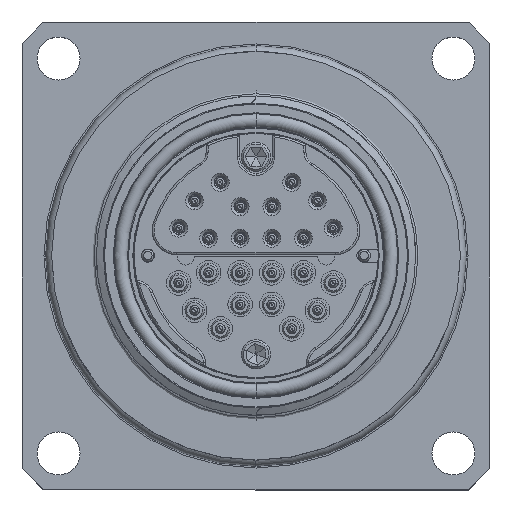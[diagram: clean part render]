
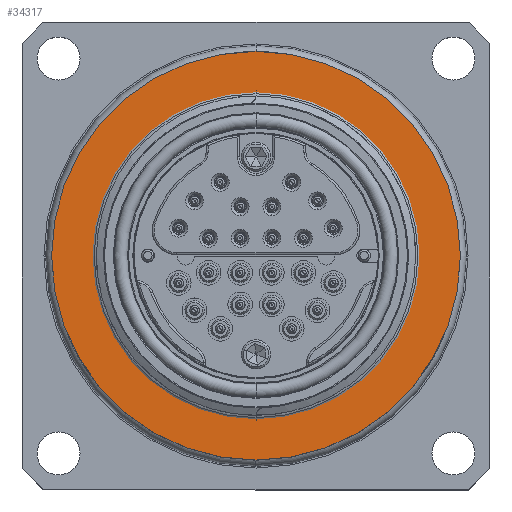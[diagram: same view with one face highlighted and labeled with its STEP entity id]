
A CAD part, top view. The second image highlights one B-rep face of the part: STEP entity #34317.
In plain terms, the highlighted planar face has unit normal (0, 0, 1).
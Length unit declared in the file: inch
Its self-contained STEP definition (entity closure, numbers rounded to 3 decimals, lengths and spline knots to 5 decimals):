
#977 = ORIENTED_EDGE ( 'NONE', *, *, #27451, .T. ) ;
#1308 = CARTESIAN_POINT ( 'NONE',  ( 0., -0.82, -0.502 ) ) ;
#2486 = CIRCLE ( 'NONE', #28874, 0.82 ) ;
#3583 = DIRECTION ( 'NONE',  ( 0., -1., 0. ) ) ;
#3795 = AXIS2_PLACEMENT_3D ( 'NONE', #22669, #11520, #36843 ) ;
#5734 = CARTESIAN_POINT ( 'NONE',  ( 0., 0.82, -0.502 ) ) ;
#7147 = FACE_BOUND ( 'NONE', #18010, .T. ) ;
#7877 = CARTESIAN_POINT ( 'NONE',  ( 0., -1.035, -0.502 ) ) ;
#8139 = CARTESIAN_POINT ( 'NONE',  ( 0., 0., -0.502 ) ) ;
#9827 = CIRCLE ( 'NONE', #43102, 0.82 ) ;
#10317 = ORIENTED_EDGE ( 'NONE', *, *, #14584, .T. ) ;
#10973 = CARTESIAN_POINT ( 'NONE',  ( 0., 0., -0.502 ) ) ;
#11520 = DIRECTION ( 'NONE',  ( 0., 0., 1. ) ) ;
#13177 = CARTESIAN_POINT ( 'NONE',  ( 0., 1.035, -0.502 ) ) ;
#13868 = DIRECTION ( 'NONE',  ( 0., 0., 1. ) ) ;
#14584 = EDGE_CURVE ( 'NONE', #30084, #15568, #25622, .T. ) ;
#15568 = VERTEX_POINT ( 'NONE', #13177 ) ;
#16405 = DIRECTION ( 'NONE',  ( 0., 0., 1. ) ) ;
#17317 = CARTESIAN_POINT ( 'NONE',  ( -1.035, 0., -0.502 ) ) ;
#18010 = EDGE_LOOP ( 'NONE', ( #23376, #36033 ) ) ;
#19701 = VERTEX_POINT ( 'NONE', #1308 ) ;
#21155 = EDGE_CURVE ( 'NONE', #24817, #19701, #2486, .T. ) ;
#22669 = CARTESIAN_POINT ( 'NONE',  ( 0., 0., -0.502 ) ) ;
#22761 = EDGE_LOOP ( 'NONE', ( #977, #10317 ) ) ;
#23376 = ORIENTED_EDGE ( 'NONE', *, *, #21155, .F. ) ;
#23512 = DIRECTION ( 'NONE',  ( 0., 1., 0. ) ) ;
#23917 = CARTESIAN_POINT ( 'NONE',  ( 0., 0., -0.502 ) ) ;
#24199 = CIRCLE ( 'NONE', #3795, 1.035 ) ;
#24817 = VERTEX_POINT ( 'NONE', #5734 ) ;
#25622 = CIRCLE ( 'NONE', #28742, 1.035 ) ;
#27451 = EDGE_CURVE ( 'NONE', #15568, #30084, #24199, .T. ) ;
#28647 = DIRECTION ( 'NONE',  ( 0., 0., -1. ) ) ;
#28742 = AXIS2_PLACEMENT_3D ( 'NONE', #8139, #16405, #23512 ) ;
#28874 = AXIS2_PLACEMENT_3D ( 'NONE', #10973, #13868, #28971 ) ;
#28971 = DIRECTION ( 'NONE',  ( 0., 1., 0. ) ) ;
#30084 = VERTEX_POINT ( 'NONE', #7877 ) ;
#30543 = DIRECTION ( 'NONE',  ( 0., 0., 1. ) ) ;
#34317 = ADVANCED_FACE ( 'NONE', ( #7147, #35949 ), #38851, .F. ) ;
#35949 = FACE_OUTER_BOUND ( 'NONE', #22761, .T. ) ;
#36033 = ORIENTED_EDGE ( 'NONE', *, *, #39709, .F. ) ;
#36843 = DIRECTION ( 'NONE',  ( 0., 1., 0. ) ) ;
#38851 = PLANE ( 'NONE',  #44416 ) ;
#39709 = EDGE_CURVE ( 'NONE', #19701, #24817, #9827, .T. ) ;
#43102 = AXIS2_PLACEMENT_3D ( 'NONE', #23917, #30543, #44981 ) ;
#44416 = AXIS2_PLACEMENT_3D ( 'NONE', #17317, #28647, #3583 ) ;
#44981 = DIRECTION ( 'NONE',  ( 0., 1., 0. ) ) ;
